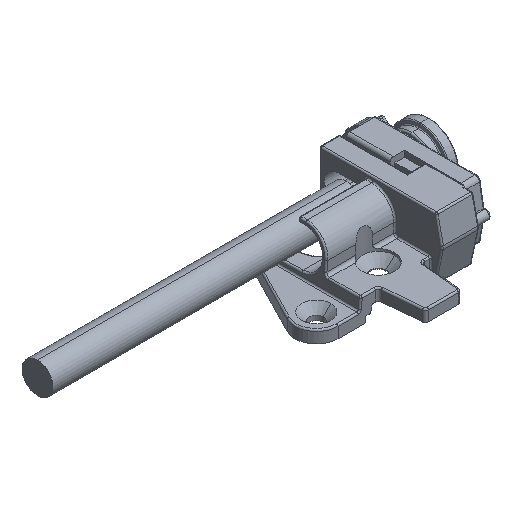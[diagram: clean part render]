
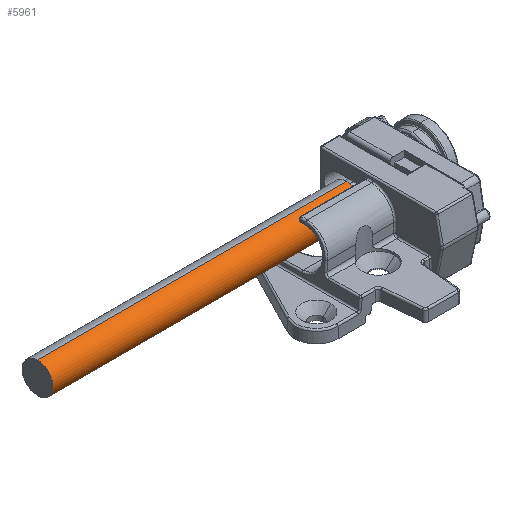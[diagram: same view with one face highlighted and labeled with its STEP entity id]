
A CAD part, isometric view. The second image highlights one B-rep face of the part: STEP entity #5961.
In plain terms, the highlighted cylindrical face has radius 5 mm (diameter 10 mm), a partial arc.
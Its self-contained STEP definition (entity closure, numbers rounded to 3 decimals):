
#3030 = CARTESIAN_POINT ( 'NONE',  ( 8.5, 18.6, 17. ) ) ;
#3031 = DIRECTION ( 'NONE',  ( 1., 0., 0. ) ) ;
#3032 = VECTOR ( 'NONE', #3031, 1000. ) ;
#3033 = CARTESIAN_POINT ( 'NONE',  ( 35.5, 18.6, 17. ) ) ;
#3034 = LINE ( 'NONE', #3033, #3032 ) ;
#3035 = CARTESIAN_POINT ( 'NONE',  ( -91.5, 18.6, 17. ) ) ;
#3036 = CARTESIAN_POINT ( 'NONE',  ( -91.5, 18.6, 7. ) ) ;
#3156 = DIRECTION ( 'NONE',  ( 0., 0., -1. ) ) ;
#3157 = DIRECTION ( 'NONE',  ( 1., 0., 0. ) ) ;
#3158 = CARTESIAN_POINT ( 'NONE',  ( 8.5, 18.6, 12. ) ) ;
#3159 = AXIS2_PLACEMENT_3D ( 'NONE', #3158, #3157, #3156 ) ;
#3160 = CIRCLE ( 'NONE', #3159, 5. ) ;
#3161 = DIRECTION ( 'NONE',  ( 0., 0., -1. ) ) ;
#3162 = DIRECTION ( 'NONE',  ( 1., 0., 0. ) ) ;
#3163 = CARTESIAN_POINT ( 'NONE',  ( -91.5, 18.6, 12. ) ) ;
#3164 = AXIS2_PLACEMENT_3D ( 'NONE', #3163, #3162, #3161 ) ;
#3165 = DIRECTION ( 'NONE',  ( 0., 0., -1. ) ) ;
#3166 = DIRECTION ( 'NONE',  ( 1., 0., 0. ) ) ;
#3167 = CARTESIAN_POINT ( 'NONE',  ( 35.5, 18.6, 12. ) ) ;
#3168 = AXIS2_PLACEMENT_3D ( 'NONE', #3167, #3166, #3165 ) ;
#3169 = CYLINDRICAL_SURFACE ( 'NONE', #3168, 5. ) ;
#3170 = CIRCLE ( 'NONE', #3164, 5. ) ;
#3171 = FACE_OUTER_BOUND ( 'NONE', #5962, .T. ) ;
#3172 = DIRECTION ( 'NONE',  ( 1., 0., 0. ) ) ;
#3173 = VECTOR ( 'NONE', #3172, 1000. ) ;
#3174 = CARTESIAN_POINT ( 'NONE',  ( 35.5, 18.6, 7. ) ) ;
#3175 = LINE ( 'NONE', #3174, #3173 ) ;
#3176 = CARTESIAN_POINT ( 'NONE',  ( 8.5, 18.6, 7. ) ) ;
#5895 = VERTEX_POINT ( 'NONE', #3036 ) ;
#5896 = VERTEX_POINT ( 'NONE', #3035 ) ;
#5898 = EDGE_CURVE ( 'NONE', #5896, #5899, #3034, .T. ) ;
#5899 = VERTEX_POINT ( 'NONE', #3030 ) ;
#5958 = VERTEX_POINT ( 'NONE', #3176 ) ;
#5960 = EDGE_CURVE ( 'NONE', #5895, #5958, #3175, .T. ) ;
#5961 = ADVANCED_FACE ( 'NONE', ( #3171 ), #3169, .T. ) ;
#5962 = EDGE_LOOP ( 'NONE', ( #5963, #5964, #5966, #5967 ) ) ;
#5963 = ORIENTED_EDGE ( 'NONE', *, *, #5898, .F. ) ;
#5964 = ORIENTED_EDGE ( 'NONE', *, *, #5965, .T. ) ;
#5965 = EDGE_CURVE ( 'NONE', #5896, #5895, #3170, .T. ) ;
#5966 = ORIENTED_EDGE ( 'NONE', *, *, #5960, .T. ) ;
#5967 = ORIENTED_EDGE ( 'NONE', *, *, #5968, .F. ) ;
#5968 = EDGE_CURVE ( 'NONE', #5899, #5958, #3160, .T. ) ;
